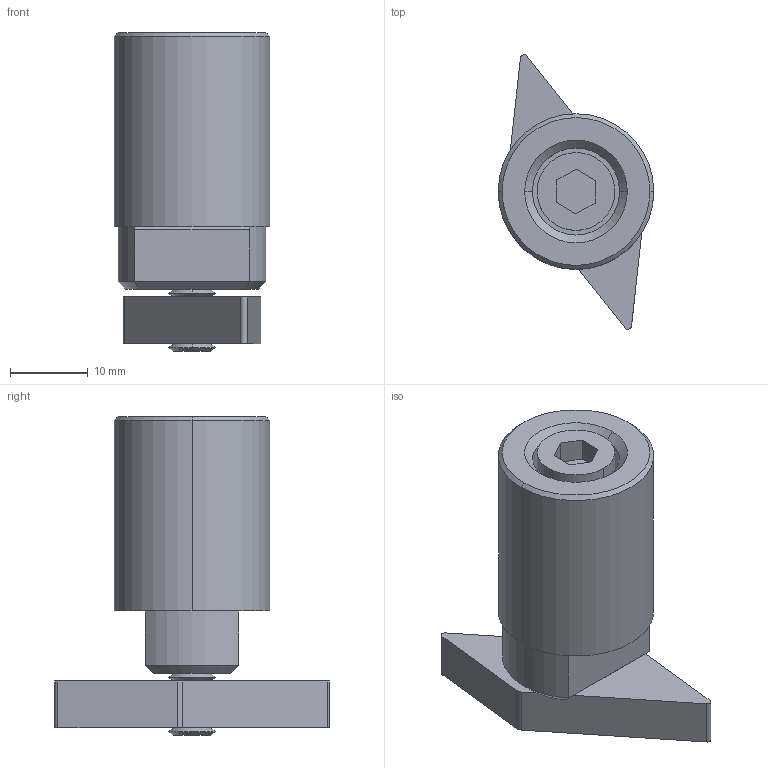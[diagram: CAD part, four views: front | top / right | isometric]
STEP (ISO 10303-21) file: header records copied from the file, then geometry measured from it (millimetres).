
FILE_DESCRIPTION (( 'STEP AP203' ), '1' );
FILE_NAME ('Default.step', '2017-06-30T11:05:03', ( 'User' ), ( '' ), 'SwSTEP 2.0', 'SolidWorks 2009', '' );
FILE_SCHEMA (( 'CONFIG_CONTROL_DESIGN' ));
Length unit declared in the file: millimetre
Products named in the file (4): Default; Part1; screw_M6x35; Wedge
Assembly tree (3 placements, depth 2):
  Default
    Part1
    screw_M6x35
    Wedge
Bounding box: 20 x 35.32 x 41 mm (x, y, z)
Volume: 10905.6 mm3; surface area: 5609.5 mm2
Topology: 3 solids, 3 shells, 104 faces, 225 edges, 131 vertices
Faces by surface type: cone 51, plane 34, cylinder 19
Entity records: 3208 total; most frequent: DIRECTION 530, CARTESIAN_POINT 478, ORIENTED_EDGE 450, EDGE_CURVE 225, AXIS2_PLACEMENT_3D 199, VECTOR 132, LINE 132, VERTEX_POINT 131
